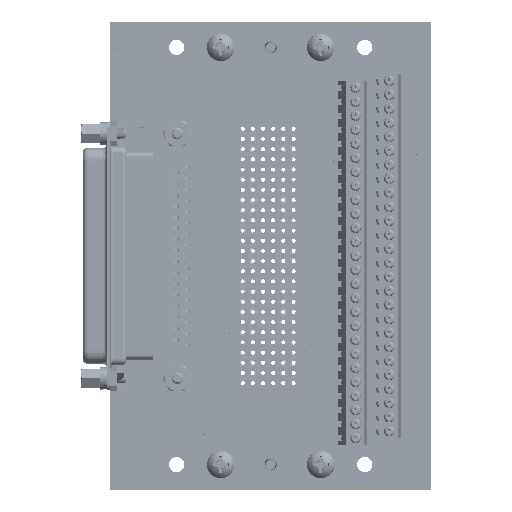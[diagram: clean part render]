
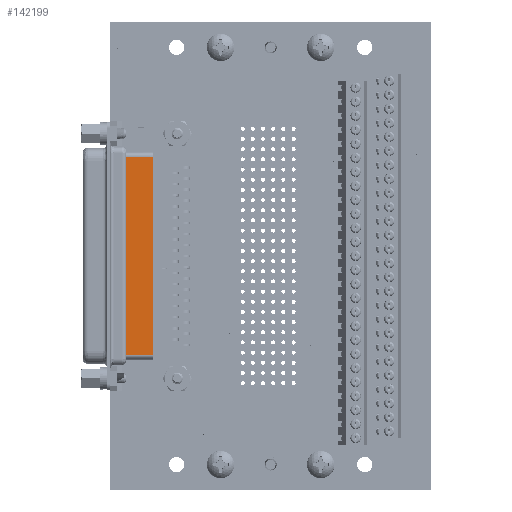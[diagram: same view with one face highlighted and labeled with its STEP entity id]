
A CAD part, top view. The second image highlights one B-rep face of the part: STEP entity #142199.
In plain terms, the highlighted planar face has unit normal (0, 0, 1) as drawn and (0, 1, 0) by its records, which use the part's own axes.
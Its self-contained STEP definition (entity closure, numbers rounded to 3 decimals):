
#2213 = VERTEX_POINT ( 'NONE', #147628 ) ;
#29813 = ORIENTED_EDGE ( 'NONE', *, *, #416576, .T. ) ;
#36644 = ORIENTED_EDGE ( 'NONE', *, *, #76140, .F. ) ;
#66957 = CARTESIAN_POINT ( 'NONE',  ( -25.676, 5.017, -10.558 ) ) ;
#71295 = LINE ( 'NONE', #165031, #174832 ) ;
#72215 = VERTEX_POINT ( 'NONE', #239018 ) ;
#76140 = EDGE_CURVE ( 'NONE', #329734, #72215, #71295, .T. ) ;
#93272 = CARTESIAN_POINT ( 'NONE',  ( -24.689, 5.017, -17.45 ) ) ;
#99755 = FACE_OUTER_BOUND ( 'NONE', #392505, .T. ) ;
#105373 = PLANE ( 'NONE',  #349311 ) ;
#115328 = DIRECTION ( 'NONE',  ( 0., 0., 1. ) ) ;
#129743 = DIRECTION ( 'NONE',  ( -1., 0., 0. ) ) ;
#133131 = B_SPLINE_CURVE_WITH_KNOTS ( 'NONE', 3,
 ( #227933, #332188, #452244, #304873 ),
 .UNSPECIFIED., .F., .F.,
 ( 4, 4 ),
 ( 0., 1. ),
 .UNSPECIFIED. ) ;
#142199 = ADVANCED_FACE ( 'NONE', ( #99755 ), #105373, .T. ) ;
#147628 = CARTESIAN_POINT ( 'NONE',  ( 24.689, 5.016, -17.45 ) ) ;
#165031 = CARTESIAN_POINT ( 'NONE',  ( 0., 5.017, -10.693 ) ) ;
#171311 = LINE ( 'NONE', #330143, #216865 ) ;
#174832 = VECTOR ( 'NONE', #129743, 1000. ) ;
#180968 = LINE ( 'NONE', #376474, #209478 ) ;
#186349 = EDGE_CURVE ( 'NONE', #329734, #2213, #171311, .T. ) ;
#204184 = ORIENTED_EDGE ( 'NONE', *, *, #186349, .T. ) ;
#209478 = VECTOR ( 'NONE', #115328, 1000. ) ;
#216865 = VECTOR ( 'NONE', #264302, 1000. ) ;
#227933 = CARTESIAN_POINT ( 'NONE',  ( 24.689, 5.016, -17.45 ) ) ;
#239018 = CARTESIAN_POINT ( 'NONE',  ( -24.689, 5.017, -10.693 ) ) ;
#264302 = DIRECTION ( 'NONE',  ( 0., 0., -1. ) ) ;
#301480 = EDGE_CURVE ( 'NONE', #366666, #72215, #180968, .T. ) ;
#304873 = CARTESIAN_POINT ( 'NONE',  ( -24.689, 5.017, -17.45 ) ) ;
#313559 = CARTESIAN_POINT ( 'NONE',  ( 24.689, 5.016, -10.693 ) ) ;
#313945 = ORIENTED_EDGE ( 'NONE', *, *, #301480, .T. ) ;
#329734 = VERTEX_POINT ( 'NONE', #313559 ) ;
#330143 = CARTESIAN_POINT ( 'NONE',  ( 24.689, 5.017, -14.072 ) ) ;
#332188 = CARTESIAN_POINT ( 'NONE',  ( 8.23, 5.017, -17.45 ) ) ;
#349311 = AXIS2_PLACEMENT_3D ( 'NONE', #66957, #466171, #357098 ) ;
#357098 = DIRECTION ( 'NONE',  ( 1., 0., 0. ) ) ;
#366666 = VERTEX_POINT ( 'NONE', #93272 ) ;
#376474 = CARTESIAN_POINT ( 'NONE',  ( -24.689, 5.017, -14.072 ) ) ;
#392505 = EDGE_LOOP ( 'NONE', ( #29813, #313945, #36644, #204184 ) ) ;
#416576 = EDGE_CURVE ( 'NONE', #2213, #366666, #133131, .T. ) ;
#452244 = CARTESIAN_POINT ( 'NONE',  ( -8.23, 5.017, -17.45 ) ) ;
#466171 = DIRECTION ( 'NONE',  ( 0., 1., 0. ) ) ;
